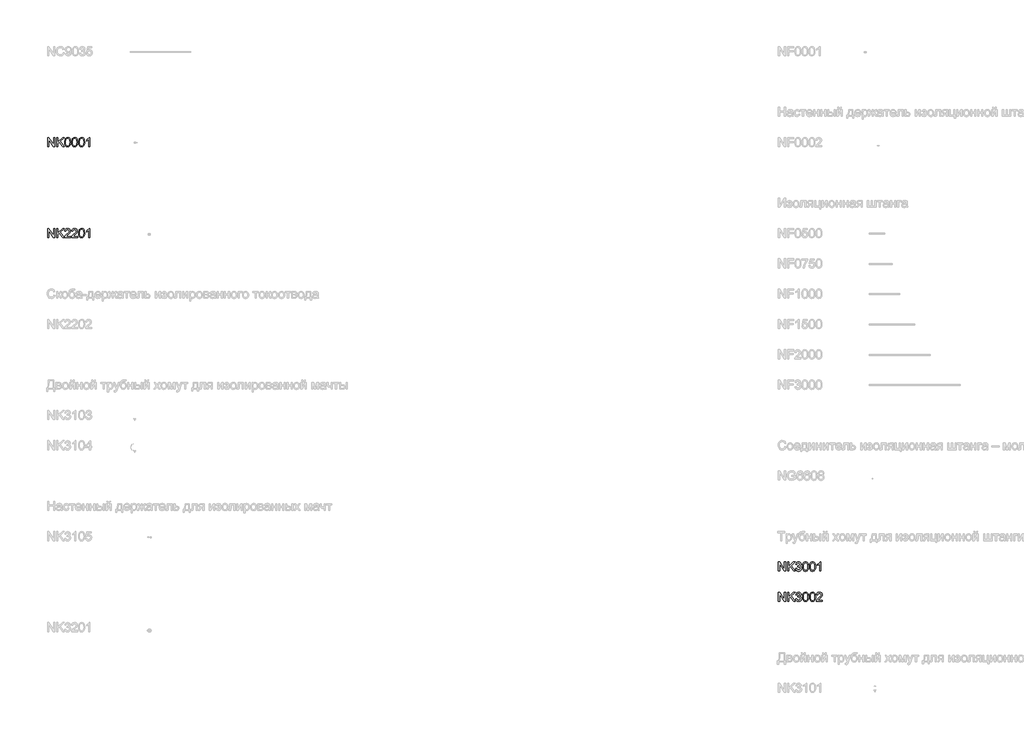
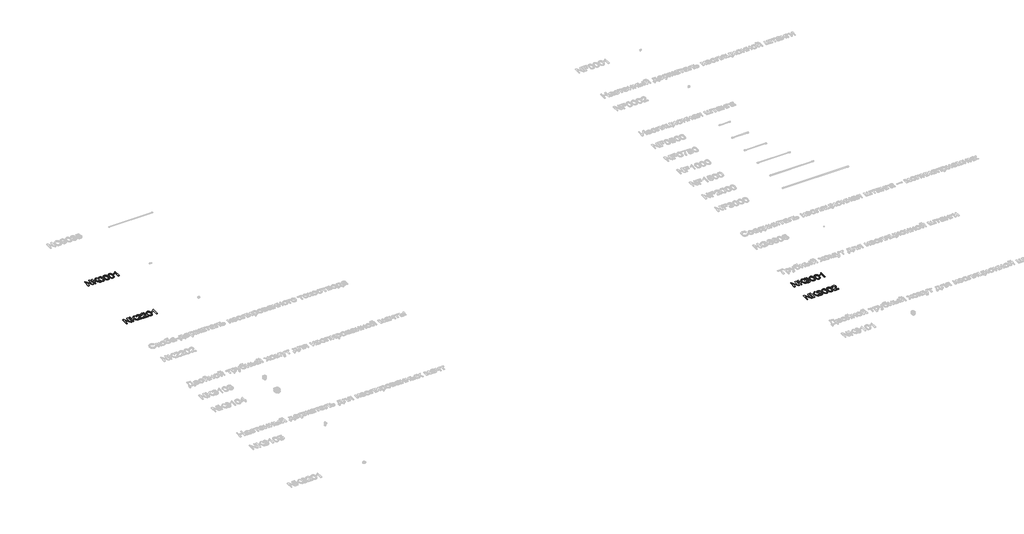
# One storey, part 19 of 124: 4 proxies.
"""IFC4 building model written with IfcOpenShell, lengths in millimetres."""

from ifc_helpers import new_model, si_unit, origin, origin_with_axes, place, context, project, spatial, polyline, outline, extrude, element, save

model = new_model("IFC4")

# Units and contexts
model_context = context("Model", 3, world=origin())
ifc_project = project(units=[si_unit("LENGTHUNIT", "METRE", prefix="MILLI")], contexts=[model_context])

# Site, building, storey
site = spatial("IfcSite", under=ifc_project)
building = spatial("IfcBuilding", under=site)
storey = spatial("IfcBuildingStorey", under=building, Name="Этаж 01", Elevation=0.0)

# Proxies
placement = place(None, origin())
element("IfcBuildingElementProxy", 1, Name="300", ObjectType="300", at=placement, inside=storey, context=model_context, shape_type="SweptSolid", body=[
    extrude(outline(polyline([(1299.8220677, -99548.8731539), (1299.8220677, -99247.5042234), (1340.1419344, -99247.5042234), (1497.5954283, -99486.2596383), (1497.5954283, -99247.5042234), (1535.2665446, -99247.5042234), (1535.2665446, -99548.8731539), (1494.9466779, -99548.8731539), (1337.493184, -99310.0441626), (1337.493184, -99548.8731539), (1299.8220677, -99548.8731539)])), origin_with_axes(), (0.0, 0.0, 1.0), 20.0),
    extrude(outline(polyline([(1601.1909981, -99548.8731539), (1601.1909981, -99247.5042234), (1638.8621144, -99247.5042234), (1638.8621144, -99395.0249035), (1793.3725524, -99247.5042234), (1846.0532541, -99247.5042234), (1716.3380626, -99371.4068794), (1850.7621437, -99548.8731539), (1804.7033179, -99548.8731539), (1689.6298298, -99396.8643135), (1638.8621144, -99445.277584), (1638.8621144, -99548.8731539), (1601.1909981, -99548.8731539)])), origin_with_axes(), (0.0, 0.0, 1.0), 20.0),
    extrude(outline(polyline([(2057.9532834, -99511.2020376), (2057.9532834, -99548.8731539), (1860.1799227, -99548.8731539), (1864.2266247, -99522.900685), (1873.5156451, -99502.6027959), (1887.1088848, -99482.9119122), (1906.7721774, -99462.3013234), (1934.2713566, -99439.2443193), (1974.922317, -99403.1367015), (1999.3128933, -99376.4836509), (2011.5081815, -99354.8521896), (2015.5732775, -99333.8093395), (2011.7381077, -99314.9461902), (2000.2325983, -99299.2652202), (1982.5466714, -99288.6978098), (1960.170249, -99285.1753397), (1936.6717866, -99288.6150364), (1918.4156426, -99298.9341264), (1906.6342217, -99315.3232692), (1902.5599286, -99336.9731247), (1864.8888123, -99332.2642351), (1874.0214828, -99295.8255235), (1882.5678414, -99281.2895862), (1893.7675489, -99269.2092612), (1907.3630879, -99259.7133072), (1923.096941, -99252.9304829), (1960.9795894, -99247.5042234), (1981.1694132, -99249.0125396), (1999.1381494, -99253.5374882), (2014.885798, -99261.0790691), (2028.4123591, -99271.6372823), (2039.2763743, -99284.4303787), (2047.0363851, -99298.676609), (2051.6923916, -99314.3759731), (2053.2443938, -99331.5284711), (2051.5705307, -99349.5454918), (2046.5489415, -99367.2498129), (2037.6370002, -99385.2576365), (2024.2920808, -99404.1851652), (2003.0193044, -99426.7823167), (1970.3237921, -99455.7990091), (1926.9872931, -99492.0353856), (1909.9911449, -99511.2020376), (2057.9532834, -99511.2020376)])), origin_with_axes(), (0.0, 0.0, 1.0), 20.0),
    extrude(outline(polyline([(2288.6888707, -99511.2020376), (2288.6888707, -99548.8731539), (2090.9155101, -99548.8731539), (2094.9622121, -99522.900685), (2104.2512324, -99502.6027959), (2117.8444722, -99482.9119122), (2137.5077648, -99462.3013234), (2165.006944, -99439.2443193), (2205.6579044, -99403.1367015), (2230.0484807, -99376.4836509), (2242.2437688, -99354.8521896), (2246.3088649, -99333.8093395), (2242.4736951, -99314.9461902), (2230.9681857, -99299.2652202), (2213.2822588, -99288.6978098), (2190.9058364, -99285.1753397), (2167.407374, -99288.6150364), (2149.15123, -99298.9341264), (2137.3698091, -99315.3232692), (2133.295516, -99336.9731247), (2095.6243997, -99332.2642351), (2104.7570702, -99295.8255235), (2113.3034288, -99281.2895862), (2124.5031363, -99269.2092612), (2138.0986753, -99259.7133072), (2153.8325283, -99252.9304829), (2191.7151768, -99247.5042234), (2211.9050005, -99249.0125396), (2229.8737368, -99253.5374882), (2245.6213854, -99261.0790691), (2259.1479465, -99271.6372823), (2270.0119617, -99284.4303787), (2277.7719725, -99298.676609), (2282.427979, -99314.3759731), (2283.9799812, -99331.5284711), (2282.3061181, -99349.5454918), (2277.2845289, -99367.2498129), (2268.3725875, -99385.2576365), (2255.0276682, -99404.1851652), (2233.7548918, -99426.7823167), (2201.0593795, -99455.7990091), (2157.7228804, -99492.0353856), (2140.7267323, -99511.2020376), (2288.6888707, -99511.2020376)])), origin_with_axes(), (0.0, 0.0, 1.0), 20.0),
    extrude(outline(polyline([(2326.359987, -99400.6167098), (2329.128299, -99352.3781832), (2337.4332351, -99313.9069236), (2351.1920217, -99284.6143197), (2370.3218855, -99263.9117604), (2394.9607821, -99251.6061077), (2425.2466673, -99247.5042234), (2448.4600212, -99249.9322446), (2469.245354, -99257.2163081), (2486.6277782, -99269.0713054), (2499.6324068, -99285.2121279), (2509.454856, -99305.50082), (2517.2907425, -99329.7994258), (2522.4226964, -99360.6555281), (2524.1333476, -99400.6167098), (2521.3926268, -99448.579325), (2513.1704642, -99486.9586141), (2499.494451, -99516.2788091), (2480.3921784, -99537.0641418), (2455.6980995, -99549.452568), (2425.2466673, -99553.5820434), (2404.4981228, -99551.7886187), (2386.1040231, -99546.4083445), (2370.0643681, -99537.4412209), (2356.3791578, -99524.8872478), (2343.2457706, -99502.1935272), (2333.8647797, -99473.9171974), (2328.2361852, -99440.0582582), (2326.359987, -99400.6167098)]), holes=[polyline([(2364.0311033, -99400.5431334), (2368.4456873, -99459.7997258), (2373.9639172, -99480.0677245), (2381.6894391, -99494.0955248), (2401.4079141, -99510.4570765), (2425.2466673, -99515.9109271), (2449.0854206, -99510.4386824), (2468.8038956, -99494.0219484), (2476.5294175, -99479.9711555), (2482.0476474, -99459.7077553), (2486.4622313, -99400.5431334), (2482.1948002, -99342.6201133), (2476.8605113, -99322.4187932), (2469.3925068, -99308.0575998), (2449.71082, -99290.8959048), (2424.8052089, -99285.1753397), (2401.2239731, -99290.2153231), (2382.2780503, -99305.3352731), (2374.295011, -99320.9702579), (2368.5928401, -99342.0498962), (2364.0311033, -99400.5431334)])]), origin_with_axes(), (0.0, 0.0, 1.0), 20.0),
    extrude(outline(polyline([(2698.3622606, -99548.8731539), (2660.6911443, -99548.8731539), (2660.6911443, -99314.0172882), (2625.0065907, -99339.437934), (2585.3489116, -99358.4574332), (2585.3489116, -99322.846456), (2614.9358211, -99306.7516188), (2640.5679991, -99287.6033609), (2660.7739177, -99267.2410925), (2674.0820489, -99247.5042234), (2698.3622606, -99247.5042234), (2698.3622606, -99548.8731539)])), origin_with_axes(), (0.0, 0.0, 1.0), 20.0),
])
element("IfcBuildingElementProxy", 2, Name="300", ObjectType="300", at=placement, inside=storey, context=model_context, shape_type="SweptSolid", body=[
    extrude(outline(polyline([(25399.8220677, -110548.8731539), (25399.8220677, -110247.5042234), (25440.1419344, -110247.5042234), (25597.5954283, -110486.2596383), (25597.5954283, -110247.5042234), (25635.2665446, -110247.5042234), (25635.2665446, -110548.8731539), (25594.9466779, -110548.8731539), (25437.493184, -110310.0441626), (25437.493184, -110548.8731539), (25399.8220677, -110548.8731539)])), origin_with_axes(), (0.0, 0.0, 1.0), 20.0),
    extrude(outline(polyline([(25701.1909981, -110548.8731539), (25701.1909981, -110247.5042234), (25738.8621144, -110247.5042234), (25738.8621144, -110395.0249035), (25893.3725524, -110247.5042234), (25946.0532541, -110247.5042234), (25816.3380626, -110371.4068794), (25950.7621437, -110548.8731539), (25904.7033179, -110548.8731539), (25789.6298298, -110396.8643135), (25738.8621144, -110445.277584), (25738.8621144, -110548.8731539), (25701.1909981, -110548.8731539)])), origin_with_axes(), (0.0, 0.0, 1.0), 20.0),
    extrude(outline(polyline([(25964.8888123, -110468.8220317), (26002.5599286, -110464.1131422), (26010.9936233, -110487.7863486), (26023.3452613, -110503.7708213), (26040.2218478, -110512.8759007), (26062.2303882, -110515.9109271), (26088.0557043, -110511.7354665), (26107.9949084, -110499.2090845), (26120.7420195, -110480.5206792), (26124.9910566, -110457.8591483), (26120.7788077, -110436.3472486), (26108.1420612, -110418.900445), (26089.0121975, -110407.3397533), (26065.320597, -110403.4861894), (26038.9066697, -110407.6064677), (26043.1005245, -110369.9353514), (26049.1337892, -110370.3768098), (26071.7033496, -110367.6728772), (26091.881677, -110359.5610792), (26106.1187102, -110345.8390807), (26110.864388, -110326.3045468), (26107.4246913, -110310.0349656), (26097.1056014, -110296.837199), (26081.360252, -110288.0908046), (26061.641777, -110285.1753397), (26041.8865139, -110288.1183957), (26025.7364943, -110296.9475636), (26013.9458763, -110311.6628434), (26007.2688181, -110332.2642351), (25969.5977018, -110327.5553456), (25980.689344, -110293.7285961), (26000.426213, -110268.4734972), (26027.4287515, -110252.7465419), (26060.3174018, -110247.5042234), (26083.9998053, -110250.0885945), (26105.7508282, -110257.8417075), (26124.0897457, -110270.0737838), (26137.5358326, -110286.0950447), (26145.7855864, -110304.5535238), (26148.5355043, -110324.0972548), (26145.9235421, -110342.3074136), (26138.0876556, -110358.8253152), (26125.1382094, -110372.8968015), (26107.185568, -110383.7677145), (26130.7668039, -110393.2958581), (26148.2411987, -110409.5194541), (26159.0569293, -110431.5555856), (26162.6621729, -110458.5213359), (26160.8595511, -110477.6328055), (26155.4516858, -110495.235959), (26146.4385769, -110511.3307963), (26133.8202245, -110525.9173174), (26118.4473556, -110538.020635), (26101.1706974, -110546.6658619), (26081.9902499, -110551.852998), (26060.906013, -110553.5820434), (26041.8497257, -110552.1059169), (26024.4856955, -110547.6775374), (26008.8139225, -110540.2969049), (25994.8344067, -110529.9640193), (25983.1127666, -110517.2858861), (25974.2146209, -110502.8695104), (25968.1399694, -110486.7148923), (25964.8888123, -110468.8220317)])), origin_with_axes(), (0.0, 0.0, 1.0), 20.0),
    extrude(outline(polyline([(26195.6243997, -110400.6167098), (26198.3927117, -110352.3781832), (26206.6976477, -110313.9069236), (26220.4564343, -110284.6143197), (26239.5862981, -110263.9117604), (26264.2251947, -110251.6061077), (26294.51108, -110247.5042234), (26317.7244339, -110249.9322446), (26338.5097666, -110257.2163081), (26355.8921909, -110269.0713054), (26368.8968194, -110285.2121279), (26378.7192687, -110305.50082), (26386.5551552, -110329.7994258), (26391.687109, -110360.6555281), (26393.3977603, -110400.6167098), (26390.6570394, -110448.579325), (26382.4348768, -110486.9586141), (26368.7588636, -110516.2788091), (26349.656591, -110537.0641418), (26324.9625121, -110549.452568), (26294.51108, -110553.5820434), (26273.7625354, -110551.7886187), (26255.3684357, -110546.4083445), (26239.3287807, -110537.4412209), (26225.6435705, -110524.8872478), (26212.5101832, -110502.1935272), (26203.1291924, -110473.9171974), (26197.5005978, -110440.0582582), (26195.6243997, -110400.6167098)]), holes=[polyline([(26233.295516, -110400.5431334), (26237.7100999, -110459.7997258), (26243.2283298, -110480.0677245), (26250.9538517, -110494.0955248), (26270.6723267, -110510.4570765), (26294.51108, -110515.9109271), (26318.3498333, -110510.4386824), (26338.0683082, -110494.0219484), (26345.7938301, -110479.9711555), (26351.31206, -110459.7077553), (26355.726644, -110400.5431334), (26351.4592128, -110342.6201133), (26346.1249239, -110322.4187932), (26338.6569194, -110308.0575998), (26318.9752326, -110290.8959048), (26294.0696216, -110285.1753397), (26270.4883857, -110290.2153231), (26251.5424629, -110305.3352731), (26243.5594236, -110320.9702579), (26237.8572527, -110342.0498962), (26233.295516, -110400.5431334)])]), origin_with_axes(), (0.0, 0.0, 1.0), 20.0),
    extrude(outline(polyline([(26426.359987, -110400.6167098), (26429.128299, -110352.3781832), (26437.4332351, -110313.9069236), (26451.1920217, -110284.6143197), (26470.3218855, -110263.9117604), (26494.9607821, -110251.6061077), (26525.2466673, -110247.5042234), (26548.4600212, -110249.9322446), (26569.245354, -110257.2163081), (26586.6277782, -110269.0713054), (26599.6324068, -110285.2121279), (26609.454856, -110305.50082), (26617.2907425, -110329.7994258), (26622.4226964, -110360.6555281), (26624.1333476, -110400.6167098), (26621.3926268, -110448.579325), (26613.1704642, -110486.9586141), (26599.494451, -110516.2788091), (26580.3921784, -110537.0641418), (26555.6980995, -110549.452568), (26525.2466673, -110553.5820434), (26504.4981228, -110551.7886187), (26486.1040231, -110546.4083445), (26470.0643681, -110537.4412209), (26456.3791578, -110524.8872478), (26443.2457706, -110502.1935272), (26433.8647797, -110473.9171974), (26428.2361852, -110440.0582582), (26426.359987, -110400.6167098)]), holes=[polyline([(26464.0311033, -110400.5431334), (26468.4456873, -110459.7997258), (26473.9639172, -110480.0677245), (26481.6894391, -110494.0955248), (26501.4079141, -110510.4570765), (26525.2466673, -110515.9109271), (26549.0854206, -110510.4386824), (26568.8038956, -110494.0219484), (26576.5294175, -110479.9711555), (26582.0476474, -110459.7077553), (26586.4622313, -110400.5431334), (26582.1948002, -110342.6201133), (26576.8605113, -110322.4187932), (26569.3925068, -110308.0575998), (26549.71082, -110290.8959048), (26524.8052089, -110285.1753397), (26501.2239731, -110290.2153231), (26482.2780503, -110305.3352731), (26474.295011, -110320.9702579), (26468.5928401, -110342.0498962), (26464.0311033, -110400.5431334)])]), origin_with_axes(), (0.0, 0.0, 1.0), 20.0),
    extrude(outline(polyline([(26798.3622606, -110548.8731539), (26760.6911443, -110548.8731539), (26760.6911443, -110314.0172882), (26725.0065907, -110339.437934), (26685.3489116, -110358.4574332), (26685.3489116, -110322.846456), (26714.9358211, -110306.7516188), (26740.5679991, -110287.6033609), (26760.7739177, -110267.2410925), (26774.0820489, -110247.5042234), (26798.3622606, -110247.5042234), (26798.3622606, -110548.8731539)])), origin_with_axes(), (0.0, 0.0, 1.0), 20.0),
])
element("IfcBuildingElementProxy", 3, Name="300", ObjectType="300", at=placement, inside=storey, context=model_context, shape_type="SweptSolid", body=[
    extrude(outline(polyline([(25399.8220677, -111548.8731539), (25399.8220677, -111247.5042234), (25440.1419344, -111247.5042234), (25597.5954283, -111486.2596383), (25597.5954283, -111247.5042234), (25635.2665446, -111247.5042234), (25635.2665446, -111548.8731539), (25594.9466779, -111548.8731539), (25437.493184, -111310.0441626), (25437.493184, -111548.8731539), (25399.8220677, -111548.8731539)])), origin_with_axes(), (0.0, 0.0, 1.0), 20.0),
    extrude(outline(polyline([(25701.1909981, -111548.8731539), (25701.1909981, -111247.5042234), (25738.8621144, -111247.5042234), (25738.8621144, -111395.0249035), (25893.3725524, -111247.5042234), (25946.0532541, -111247.5042234), (25816.3380626, -111371.4068794), (25950.7621437, -111548.8731539), (25904.7033179, -111548.8731539), (25789.6298298, -111396.8643135), (25738.8621144, -111445.277584), (25738.8621144, -111548.8731539), (25701.1909981, -111548.8731539)])), origin_with_axes(), (0.0, 0.0, 1.0), 20.0),
    extrude(outline(polyline([(25964.8888123, -111468.8220317), (26002.5599286, -111464.1131422), (26010.9936233, -111487.7863486), (26023.3452613, -111503.7708213), (26040.2218478, -111512.8759007), (26062.2303882, -111515.9109271), (26088.0557043, -111511.7354665), (26107.9949084, -111499.2090845), (26120.7420195, -111480.5206792), (26124.9910566, -111457.8591483), (26120.7788077, -111436.3472486), (26108.1420612, -111418.900445), (26089.0121975, -111407.3397533), (26065.320597, -111403.4861894), (26038.9066697, -111407.6064677), (26043.1005245, -111369.9353514), (26049.1337892, -111370.3768098), (26071.7033496, -111367.6728772), (26091.881677, -111359.5610792), (26106.1187102, -111345.8390807), (26110.864388, -111326.3045468), (26107.4246913, -111310.0349656), (26097.1056014, -111296.837199), (26081.360252, -111288.0908046), (26061.641777, -111285.1753397), (26041.8865139, -111288.1183957), (26025.7364943, -111296.9475636), (26013.9458763, -111311.6628434), (26007.2688181, -111332.2642351), (25969.5977018, -111327.5553456), (25980.689344, -111293.7285961), (26000.426213, -111268.4734972), (26027.4287515, -111252.7465419), (26060.3174018, -111247.5042234), (26083.9998053, -111250.0885945), (26105.7508282, -111257.8417075), (26124.0897457, -111270.0737838), (26137.5358326, -111286.0950447), (26145.7855864, -111304.5535238), (26148.5355043, -111324.0972548), (26145.9235421, -111342.3074136), (26138.0876556, -111358.8253152), (26125.1382094, -111372.8968015), (26107.185568, -111383.7677145), (26130.7668039, -111393.2958581), (26148.2411987, -111409.5194541), (26159.0569293, -111431.5555856), (26162.6621729, -111458.5213359), (26160.8595511, -111477.6328055), (26155.4516858, -111495.235959), (26146.4385769, -111511.3307963), (26133.8202245, -111525.9173174), (26118.4473556, -111538.020635), (26101.1706974, -111546.6658619), (26081.9902499, -111551.852998), (26060.906013, -111553.5820434), (26041.8497257, -111552.1059169), (26024.4856955, -111547.6775374), (26008.8139225, -111540.2969049), (25994.8344067, -111529.9640193), (25983.1127666, -111517.2858861), (25974.2146209, -111502.8695104), (25968.1399694, -111486.7148923), (25964.8888123, -111468.8220317)])), origin_with_axes(), (0.0, 0.0, 1.0), 20.0),
    extrude(outline(polyline([(26195.6243997, -111400.6167098), (26198.3927117, -111352.3781832), (26206.6976477, -111313.9069236), (26220.4564343, -111284.6143197), (26239.5862981, -111263.9117604), (26264.2251947, -111251.6061077), (26294.51108, -111247.5042234), (26317.7244339, -111249.9322446), (26338.5097666, -111257.2163081), (26355.8921909, -111269.0713054), (26368.8968194, -111285.2121279), (26378.7192687, -111305.50082), (26386.5551552, -111329.7994258), (26391.687109, -111360.6555281), (26393.3977603, -111400.6167098), (26390.6570394, -111448.579325), (26382.4348768, -111486.9586141), (26368.7588636, -111516.2788091), (26349.656591, -111537.0641418), (26324.9625121, -111549.452568), (26294.51108, -111553.5820434), (26273.7625354, -111551.7886187), (26255.3684357, -111546.4083445), (26239.3287807, -111537.4412209), (26225.6435705, -111524.8872478), (26212.5101832, -111502.1935272), (26203.1291924, -111473.9171974), (26197.5005978, -111440.0582582), (26195.6243997, -111400.6167098)]), holes=[polyline([(26233.295516, -111400.5431334), (26237.7100999, -111459.7997258), (26243.2283298, -111480.0677245), (26250.9538517, -111494.0955248), (26270.6723267, -111510.4570765), (26294.51108, -111515.9109271), (26318.3498333, -111510.4386824), (26338.0683082, -111494.0219484), (26345.7938301, -111479.9711555), (26351.31206, -111459.7077553), (26355.726644, -111400.5431334), (26351.4592128, -111342.6201133), (26346.1249239, -111322.4187932), (26338.6569194, -111308.0575998), (26318.9752326, -111290.8959048), (26294.0696216, -111285.1753397), (26270.4883857, -111290.2153231), (26251.5424629, -111305.3352731), (26243.5594236, -111320.9702579), (26237.8572527, -111342.0498962), (26233.295516, -111400.5431334)])]), origin_with_axes(), (0.0, 0.0, 1.0), 20.0),
    extrude(outline(polyline([(26426.359987, -111400.6167098), (26429.128299, -111352.3781832), (26437.4332351, -111313.9069236), (26451.1920217, -111284.6143197), (26470.3218855, -111263.9117604), (26494.9607821, -111251.6061077), (26525.2466673, -111247.5042234), (26548.4600212, -111249.9322446), (26569.245354, -111257.2163081), (26586.6277782, -111269.0713054), (26599.6324068, -111285.2121279), (26609.454856, -111305.50082), (26617.2907425, -111329.7994258), (26622.4226964, -111360.6555281), (26624.1333476, -111400.6167098), (26621.3926268, -111448.579325), (26613.1704642, -111486.9586141), (26599.494451, -111516.2788091), (26580.3921784, -111537.0641418), (26555.6980995, -111549.452568), (26525.2466673, -111553.5820434), (26504.4981228, -111551.7886187), (26486.1040231, -111546.4083445), (26470.0643681, -111537.4412209), (26456.3791578, -111524.8872478), (26443.2457706, -111502.1935272), (26433.8647797, -111473.9171974), (26428.2361852, -111440.0582582), (26426.359987, -111400.6167098)]), holes=[polyline([(26464.0311033, -111400.5431334), (26468.4456873, -111459.7997258), (26473.9639172, -111480.0677245), (26481.6894391, -111494.0955248), (26501.4079141, -111510.4570765), (26525.2466673, -111515.9109271), (26549.0854206, -111510.4386824), (26568.8038956, -111494.0219484), (26576.5294175, -111479.9711555), (26582.0476474, -111459.7077553), (26586.4622313, -111400.5431334), (26582.1948002, -111342.6201133), (26576.8605113, -111322.4187932), (26569.3925068, -111308.0575998), (26549.71082, -111290.8959048), (26524.8052089, -111285.1753397), (26501.2239731, -111290.2153231), (26482.2780503, -111305.3352731), (26474.295011, -111320.9702579), (26468.5928401, -111342.0498962), (26464.0311033, -111400.5431334)])]), origin_with_axes(), (0.0, 0.0, 1.0), 20.0),
    extrude(outline(polyline([(26850.1600455, -111511.2020376), (26850.1600455, -111548.8731539), (26652.3866849, -111548.8731539), (26656.4333868, -111522.900685), (26665.7224072, -111502.6027959), (26679.3156469, -111482.9119122), (26698.9789396, -111462.3013234), (26726.4781187, -111439.2443193), (26767.1290792, -111403.1367015), (26791.5196554, -111376.4836509), (26803.7149436, -111354.8521896), (26807.7800396, -111333.8093395), (26803.9448698, -111314.9461902), (26792.4393604, -111299.2652202), (26774.7534335, -111288.6978098), (26752.3770112, -111285.1753397), (26728.8785487, -111288.6150364), (26710.6224047, -111298.9341264), (26698.8409838, -111315.3232692), (26694.7666907, -111336.9731247), (26657.0955744, -111332.2642351), (26666.2282449, -111295.8255235), (26674.7746035, -111281.2895862), (26685.974311, -111269.2092612), (26699.56985, -111259.7133072), (26715.3037031, -111252.9304829), (26753.1863516, -111247.5042234), (26773.3761753, -111249.0125396), (26791.3449115, -111253.5374882), (26807.0925602, -111261.0790691), (26820.6191213, -111271.6372823), (26831.4831364, -111284.4303787), (26839.2431473, -111298.676609), (26843.8991538, -111314.3759731), (26845.4511559, -111331.5284711), (26843.7772929, -111349.5454918), (26838.7557036, -111367.2498129), (26829.8437623, -111385.2576365), (26816.4988429, -111404.1851652), (26795.2260665, -111426.7823167), (26762.5305542, -111455.7990091), (26719.1940552, -111492.0353856), (26702.197907, -111511.2020376), (26850.1600455, -111511.2020376)])), origin_with_axes(), (0.0, 0.0, 1.0), 20.0),
])
element("IfcBuildingElementProxy", 4, Name="300", ObjectType="300", at=placement, inside=storey, context=model_context, shape_type="SweptSolid", body=[
    extrude(outline(polyline([(1299.8220677, -96548.8731539), (1299.8220677, -96247.5042234), (1340.1419344, -96247.5042234), (1497.5954283, -96486.2596383), (1497.5954283, -96247.5042234), (1535.2665446, -96247.5042234), (1535.2665446, -96548.8731539), (1494.9466779, -96548.8731539), (1337.493184, -96310.0441626), (1337.493184, -96548.8731539), (1299.8220677, -96548.8731539)])), origin_with_axes(), (0.0, 0.0, 1.0), 20.0),
    extrude(outline(polyline([(1601.1909981, -96548.8731539), (1601.1909981, -96247.5042234), (1638.8621144, -96247.5042234), (1638.8621144, -96395.0249035), (1793.3725524, -96247.5042234), (1846.0532541, -96247.5042234), (1716.3380626, -96371.4068794), (1850.7621437, -96548.8731539), (1804.7033179, -96548.8731539), (1689.6298298, -96396.8643135), (1638.8621144, -96445.277584), (1638.8621144, -96548.8731539), (1601.1909981, -96548.8731539)])), origin_with_axes(), (0.0, 0.0, 1.0), 20.0),
    extrude(outline(polyline([(1864.8888123, -96400.6167098), (1867.6571243, -96352.3781832), (1875.9620603, -96313.9069236), (1889.720847, -96284.6143197), (1908.8507107, -96263.9117604), (1933.4896073, -96251.6061077), (1963.7754926, -96247.5042234), (1986.9888465, -96249.9322446), (2007.7741792, -96257.2163081), (2025.1566035, -96269.0713054), (2038.161232, -96285.2121279), (2047.9836813, -96305.50082), (2055.8195678, -96329.7994258), (2060.9515216, -96360.6555281), (2062.6621729, -96400.6167098), (2059.921452, -96448.579325), (2051.6992894, -96486.9586141), (2038.0232763, -96516.2788091), (2018.9210037, -96537.0641418), (1994.2269247, -96549.452568), (1963.7754926, -96553.5820434), (1943.0269481, -96551.7886187), (1924.6328483, -96546.4083445), (1908.5931933, -96537.4412209), (1894.9079831, -96524.8872478), (1881.7745959, -96502.1935272), (1872.393605, -96473.9171974), (1866.7650105, -96440.0582582), (1864.8888123, -96400.6167098)]), holes=[polyline([(1902.5599286, -96400.5431334), (1906.9745125, -96459.7997258), (1912.4927425, -96480.0677245), (1920.2182644, -96494.0955248), (1939.9367393, -96510.4570765), (1963.7754926, -96515.9109271), (1987.6142459, -96510.4386824), (2007.3327208, -96494.0219484), (2015.0582427, -96479.9711555), (2020.5764726, -96459.7077553), (2024.9910566, -96400.5431334), (2020.7236254, -96342.6201133), (2015.3893365, -96322.4187932), (2007.921332, -96308.0575998), (1988.2396453, -96290.8959048), (1963.3340342, -96285.1753397), (1939.7527983, -96290.2153231), (1920.8068756, -96305.3352731), (1912.8238363, -96320.9702579), (1907.1216653, -96342.0498962), (1902.5599286, -96400.5431334)])]), origin_with_axes(), (0.0, 0.0, 1.0), 20.0),
    extrude(outline(polyline([(2095.6243997, -96400.6167098), (2098.3927117, -96352.3781832), (2106.6976477, -96313.9069236), (2120.4564343, -96284.6143197), (2139.5862981, -96263.9117604), (2164.2251947, -96251.6061077), (2194.51108, -96247.5042234), (2217.7244339, -96249.9322446), (2238.5097666, -96257.2163081), (2255.8921909, -96269.0713054), (2268.8968194, -96285.2121279), (2278.7192687, -96305.50082), (2286.5551552, -96329.7994258), (2291.687109, -96360.6555281), (2293.3977603, -96400.6167098), (2290.6570394, -96448.579325), (2282.4348768, -96486.9586141), (2268.7588636, -96516.2788091), (2249.656591, -96537.0641418), (2224.9625121, -96549.452568), (2194.51108, -96553.5820434), (2173.7625354, -96551.7886187), (2155.3684357, -96546.4083445), (2139.3287807, -96537.4412209), (2125.6435705, -96524.8872478), (2112.5101832, -96502.1935272), (2103.1291924, -96473.9171974), (2097.5005978, -96440.0582582), (2095.6243997, -96400.6167098)]), holes=[polyline([(2133.295516, -96400.5431334), (2137.7100999, -96459.7997258), (2143.2283298, -96480.0677245), (2150.9538517, -96494.0955248), (2170.6723267, -96510.4570765), (2194.51108, -96515.9109271), (2218.3498333, -96510.4386824), (2238.0683082, -96494.0219484), (2245.7938301, -96479.9711555), (2251.31206, -96459.7077553), (2255.726644, -96400.5431334), (2251.4592128, -96342.6201133), (2246.1249239, -96322.4187932), (2238.6569194, -96308.0575998), (2218.9752326, -96290.8959048), (2194.0696216, -96285.1753397), (2170.4883857, -96290.2153231), (2151.5424629, -96305.3352731), (2143.5594236, -96320.9702579), (2137.8572527, -96342.0498962), (2133.295516, -96400.5431334)])]), origin_with_axes(), (0.0, 0.0, 1.0), 20.0),
    extrude(outline(polyline([(2326.359987, -96400.6167098), (2329.128299, -96352.3781832), (2337.4332351, -96313.9069236), (2351.1920217, -96284.6143197), (2370.3218855, -96263.9117604), (2394.9607821, -96251.6061077), (2425.2466673, -96247.5042234), (2448.4600212, -96249.9322446), (2469.245354, -96257.2163081), (2486.6277782, -96269.0713054), (2499.6324068, -96285.2121279), (2509.454856, -96305.50082), (2517.2907425, -96329.7994258), (2522.4226964, -96360.6555281), (2524.1333476, -96400.6167098), (2521.3926268, -96448.579325), (2513.1704642, -96486.9586141), (2499.494451, -96516.2788091), (2480.3921784, -96537.0641418), (2455.6980995, -96549.452568), (2425.2466673, -96553.5820434), (2404.4981228, -96551.7886187), (2386.1040231, -96546.4083445), (2370.0643681, -96537.4412209), (2356.3791578, -96524.8872478), (2343.2457706, -96502.1935272), (2333.8647797, -96473.9171974), (2328.2361852, -96440.0582582), (2326.359987, -96400.6167098)]), holes=[polyline([(2364.0311033, -96400.5431334), (2368.4456873, -96459.7997258), (2373.9639172, -96480.0677245), (2381.6894391, -96494.0955248), (2401.4079141, -96510.4570765), (2425.2466673, -96515.9109271), (2449.0854206, -96510.4386824), (2468.8038956, -96494.0219484), (2476.5294175, -96479.9711555), (2482.0476474, -96459.7077553), (2486.4622313, -96400.5431334), (2482.1948002, -96342.6201133), (2476.8605113, -96322.4187932), (2469.3925068, -96308.0575998), (2449.71082, -96290.8959048), (2424.8052089, -96285.1753397), (2401.2239731, -96290.2153231), (2382.2780503, -96305.3352731), (2374.295011, -96320.9702579), (2368.5928401, -96342.0498962), (2364.0311033, -96400.5431334)])]), origin_with_axes(), (0.0, 0.0, 1.0), 20.0),
    extrude(outline(polyline([(2698.3622606, -96548.8731539), (2660.6911443, -96548.8731539), (2660.6911443, -96314.0172882), (2625.0065907, -96339.437934), (2585.3489116, -96358.4574332), (2585.3489116, -96322.846456), (2614.9358211, -96306.7516188), (2640.5679991, -96287.6033609), (2660.7739177, -96267.2410925), (2674.0820489, -96247.5042234), (2698.3622606, -96247.5042234), (2698.3622606, -96548.8731539)])), origin_with_axes(), (0.0, 0.0, 1.0), 20.0),
])

save(model, "model.ifc")
